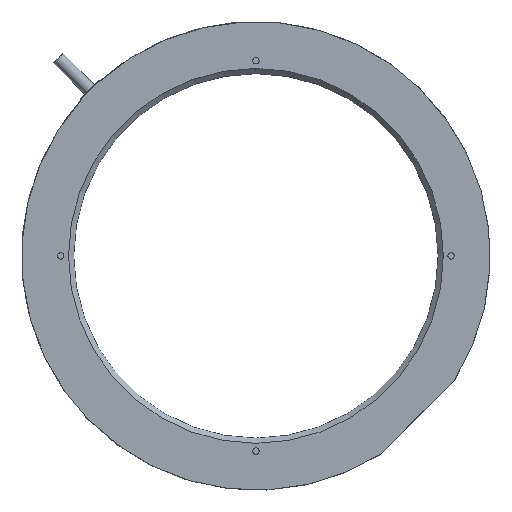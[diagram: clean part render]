
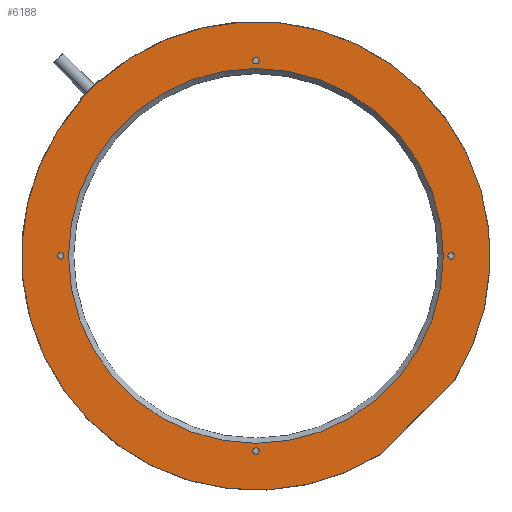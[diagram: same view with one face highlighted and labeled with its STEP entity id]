
A CAD part, top view. The second image highlights one B-rep face of the part: STEP entity #6188.
In plain terms, the highlighted planar face has unit normal (0, 0, 1).
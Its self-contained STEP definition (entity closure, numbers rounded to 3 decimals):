
#2042=CARTESIAN_POINT('',(0.,-75.,2.));
#2043=DIRECTION('',(0.,0.,-1.));
#2044=DIRECTION('',(0.,-1.,0.));
#2045=AXIS2_PLACEMENT_3D('',#2042,#2043,#2044);
#2047=CARTESIAN_POINT('',(0.,-75.,2.));
#2048=DIRECTION('',(0.,0.,-1.));
#2049=DIRECTION('',(0.,1.,0.));
#2050=AXIS2_PLACEMENT_3D('',#2047,#2048,#2049);
#2052=CARTESIAN_POINT('',(-75.,0.,2.));
#2053=DIRECTION('',(0.,0.,-1.));
#2054=DIRECTION('',(0.,-1.,0.));
#2055=AXIS2_PLACEMENT_3D('',#2052,#2053,#2054);
#2057=CARTESIAN_POINT('',(-75.,0.,2.));
#2058=DIRECTION('',(0.,0.,-1.));
#2059=DIRECTION('',(0.,1.,0.));
#2060=AXIS2_PLACEMENT_3D('',#2057,#2058,#2059);
#2062=CARTESIAN_POINT('',(0.,75.,2.));
#2063=DIRECTION('',(0.,0.,-1.));
#2064=DIRECTION('',(0.,-1.,0.));
#2065=AXIS2_PLACEMENT_3D('',#2062,#2063,#2064);
#2067=CARTESIAN_POINT('',(0.,75.,2.));
#2068=DIRECTION('',(0.,0.,-1.));
#2069=DIRECTION('',(0.,1.,0.));
#2070=AXIS2_PLACEMENT_3D('',#2067,#2068,#2069);
#2072=CARTESIAN_POINT('',(75.,0.,2.));
#2073=DIRECTION('',(0.,0.,-1.));
#2074=DIRECTION('',(0.,-1.,0.));
#2075=AXIS2_PLACEMENT_3D('',#2072,#2073,#2074);
#2077=CARTESIAN_POINT('',(75.,0.,2.));
#2078=DIRECTION('',(0.,0.,-1.));
#2079=DIRECTION('',(0.,1.,0.));
#2080=AXIS2_PLACEMENT_3D('',#2077,#2078,#2079);
#2082=CARTESIAN_POINT('',(0.,0.,2.));
#2083=DIRECTION('',(0.,0.,1.));
#2084=DIRECTION('',(0.847,-0.532,0.));
#2085=AXIS2_PLACEMENT_3D('',#2082,#2083,#2084);
#2087=DIRECTION('',(0.707,0.707,0.));
#2088=VECTOR('',#2087,40.);
#2089=CARTESIAN_POINT('',(47.906,-76.191,2.));
#2090=LINE('',#2089,#2088);
#2091=CARTESIAN_POINT('',(0.,0.,2.));
#2092=DIRECTION('',(0.,0.,1.));
#2093=DIRECTION('',(-0.744,0.668,0.));
#2094=AXIS2_PLACEMENT_3D('',#2091,#2092,#2093);
#2096=CARTESIAN_POINT('',(0.,0.,2.));
#2097=DIRECTION('',(0.,0.,-1.));
#2098=DIRECTION('',(0.,-1.,0.));
#2099=AXIS2_PLACEMENT_3D('',#2096,#2097,#2098);
#2101=CARTESIAN_POINT('',(0.,0.,2.));
#2102=DIRECTION('',(0.,0.,-1.));
#2103=DIRECTION('',(0.,1.,0.));
#2104=AXIS2_PLACEMENT_3D('',#2101,#2102,#2103);
#2193=CARTESIAN_POINT('',(-60.155,66.943,2.));
#2195=DIRECTION('',(0.707,-0.707,0.));
#2196=VECTOR('',#2195,0.328);
#2197=CARTESIAN_POINT('',(-60.387,67.175,2.));
#2198=LINE('',#2197,#2196);
#2319=DIRECTION('',(0.707,0.707,0.));
#2320=VECTOR('',#2319,9.6);
#2321=CARTESIAN_POINT('',(-67.175,60.387,2.));
#2322=LINE('',#2321,#2320);
#2342=CARTESIAN_POINT('',(-66.943,60.155,2.));
#2363=DIRECTION('',(-0.707,0.707,0.));
#2364=VECTOR('',#2363,0.328);
#2365=CARTESIAN_POINT('',(-66.943,60.155,2.));
#2366=LINE('',#2365,#2364);
#2930=CARTESIAN_POINT('',(-60.387,67.175,2.));
#2931=VERTEX_POINT('',#2930);
#2932=CARTESIAN_POINT('',(-67.175,60.387,2.));
#2933=VERTEX_POINT('',#2932);
#3000=CARTESIAN_POINT('',(75.,-1.25,2.));
#3001=CARTESIAN_POINT('',(75.,1.25,2.));
#3002=VERTEX_POINT('',#3000);
#3003=VERTEX_POINT('',#3001);
#3004=CARTESIAN_POINT('',(0.,73.75,2.));
#3005=CARTESIAN_POINT('',(0.,76.25,2.));
#3006=VERTEX_POINT('',#3004);
#3007=VERTEX_POINT('',#3005);
#3008=CARTESIAN_POINT('',(-75.,-1.25,2.));
#3009=CARTESIAN_POINT('',(-75.,1.25,2.));
#3010=VERTEX_POINT('',#3008);
#3011=VERTEX_POINT('',#3009);
#3012=CARTESIAN_POINT('',(0.,-76.25,2.));
#3013=CARTESIAN_POINT('',(0.,-73.75,2.));
#3014=VERTEX_POINT('',#3012);
#3015=VERTEX_POINT('',#3013);
#3016=CARTESIAN_POINT('',(47.906,-76.191,2.));
#3017=CARTESIAN_POINT('',(76.191,-47.906,2.));
#3018=VERTEX_POINT('',#3016);
#3019=VERTEX_POINT('',#3017);
#3029=VERTEX_POINT('',#2193);
#3030=VERTEX_POINT('',#2342);
#3052=CARTESIAN_POINT('',(0.,-72.,2.));
#3053=CARTESIAN_POINT('',(0.,72.,2.));
#3054=VERTEX_POINT('',#3052);
#3055=VERTEX_POINT('',#3053);
#6140=CARTESIAN_POINT('',(-63.569,63.569,2.));
#6141=DIRECTION('',(0.,0.,1.));
#6142=DIRECTION('',(-0.707,0.707,0.));
#6143=AXIS2_PLACEMENT_3D('',#6140,#6141,#6142);
#6144=PLANE('',#6143);
#6146=ORIENTED_EDGE('',*,*,#6145,.T.);
#6148=ORIENTED_EDGE('',*,*,#6147,.F.);
#6150=ORIENTED_EDGE('',*,*,#6149,.F.);
#6152=ORIENTED_EDGE('',*,*,#6151,.F.);
#6154=ORIENTED_EDGE('',*,*,#6153,.T.);
#6156=ORIENTED_EDGE('',*,*,#6155,.T.);
#6157=EDGE_LOOP('',(#6146,#6148,#6150,#6152,#6154,#6156));
#6158=FACE_OUTER_BOUND('',#6157,.F.);
#6160=ORIENTED_EDGE('',*,*,#6159,.F.);
#6162=ORIENTED_EDGE('',*,*,#6161,.F.);
#6163=EDGE_LOOP('',(#6160,#6162));
#6164=FACE_BOUND('',#6163,.F.);
#6166=ORIENTED_EDGE('',*,*,#6165,.F.);
#6168=ORIENTED_EDGE('',*,*,#6167,.F.);
#6169=EDGE_LOOP('',(#6166,#6168));
#6170=FACE_BOUND('',#6169,.F.);
#6172=ORIENTED_EDGE('',*,*,#6171,.F.);
#6174=ORIENTED_EDGE('',*,*,#6173,.F.);
#6175=EDGE_LOOP('',(#6172,#6174));
#6176=FACE_BOUND('',#6175,.F.);
#6178=ORIENTED_EDGE('',*,*,#6177,.F.);
#6180=ORIENTED_EDGE('',*,*,#6179,.F.);
#6181=EDGE_LOOP('',(#6178,#6180));
#6182=FACE_BOUND('',#6181,.F.);
#6183=ORIENTED_EDGE('',*,*,#6130,.F.);
#6185=ORIENTED_EDGE('',*,*,#6184,.F.);
#6186=EDGE_LOOP('',(#6183,#6185));
#6187=FACE_BOUND('',#6186,.F.);
#6188=ADVANCED_FACE('',(#6158,#6164,#6170,#6176,#6182,#6187),#6144,.T.);
#2046=CIRCLE('',#2045,1.25);
#2051=CIRCLE('',#2050,1.25);
#2056=CIRCLE('',#2055,1.25);
#2061=CIRCLE('',#2060,1.25);
#2066=CIRCLE('',#2065,1.25);
#2071=CIRCLE('',#2070,1.25);
#2076=CIRCLE('',#2075,1.25);
#2081=CIRCLE('',#2080,1.25);
#2086=CIRCLE('',#2085,90.);
#2095=CIRCLE('',#2094,90.);
#2100=CIRCLE('',#2099,72.);
#2105=CIRCLE('',#2104,72.);
#6130=EDGE_CURVE('',#3054,#3055,#2100,.T.);
#6145=EDGE_CURVE('',#2931,#3029,#2198,.T.);
#6147=EDGE_CURVE('',#3019,#3029,#2086,.T.);
#6149=EDGE_CURVE('',#3018,#3019,#2090,.T.);
#6151=EDGE_CURVE('',#3030,#3018,#2095,.T.);
#6153=EDGE_CURVE('',#3030,#2933,#2366,.T.);
#6155=EDGE_CURVE('',#2933,#2931,#2322,.T.);
#6159=EDGE_CURVE('',#3010,#3011,#2056,.T.);
#6161=EDGE_CURVE('',#3011,#3010,#2061,.T.);
#6165=EDGE_CURVE('',#3006,#3007,#2066,.T.);
#6167=EDGE_CURVE('',#3007,#3006,#2071,.T.);
#6171=EDGE_CURVE('',#3002,#3003,#2076,.T.);
#6173=EDGE_CURVE('',#3003,#3002,#2081,.T.);
#6177=EDGE_CURVE('',#3014,#3015,#2046,.T.);
#6179=EDGE_CURVE('',#3015,#3014,#2051,.T.);
#6184=EDGE_CURVE('',#3055,#3054,#2105,.T.);
